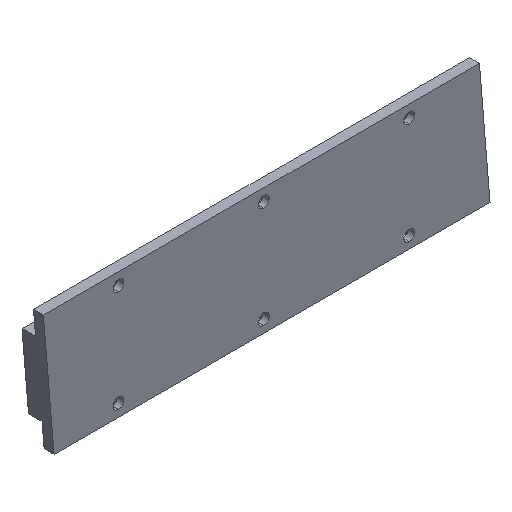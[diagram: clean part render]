
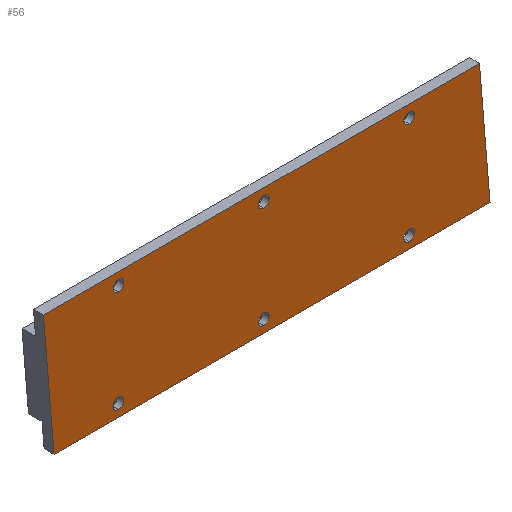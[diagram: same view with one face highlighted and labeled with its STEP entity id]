
A CAD part, isometric view. The second image highlights one B-rep face of the part: STEP entity #56.
In plain terms, the highlighted planar face has unit normal (0, -1, 0).
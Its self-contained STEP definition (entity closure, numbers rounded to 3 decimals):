
#7 = VERTEX_POINT ( 'NONE', #683 ) ;
#20 = VERTEX_POINT ( 'NONE', #718 ) ;
#29 = EDGE_LOOP ( 'NONE', ( #50, #57 ) ) ;
#30 = ORIENTED_EDGE ( 'NONE', *, *, #150, .T. ) ;
#31 = EDGE_LOOP ( 'NONE', ( #77, #72, #324, #70 ) ) ;
#32 = EDGE_LOOP ( 'NONE', ( #62, #75 ) ) ;
#33 = EDGE_LOOP ( 'NONE', ( #34, #61 ) ) ;
#34 = ORIENTED_EDGE ( 'NONE', *, *, #59, .T. ) ;
#35 = EDGE_CURVE ( 'NONE', #7, #101, #770, .T. ) ;
#36 = ORIENTED_EDGE ( 'NONE', *, *, #51, .T. ) ;
#44 = EDGE_CURVE ( 'NONE', #166, #236, #765, .T. ) ;
#49 = ORIENTED_EDGE ( 'NONE', *, *, #210, .T. ) ;
#50 = ORIENTED_EDGE ( 'NONE', *, *, #44, .T. ) ;
#51 = EDGE_CURVE ( 'NONE', #208, #222, #752, .T. ) ;
#53 = EDGE_CURVE ( 'NONE', #101, #20, #751, .T. ) ;
#56 = ADVANCED_FACE ( 'NONE', ( #772, #738, #747, #756, #755, #750, #749 ), #737, .F. ) ;
#57 = ORIENTED_EDGE ( 'NONE', *, *, #163, .T. ) ;
#58 = EDGE_LOOP ( 'NONE', ( #71, #78 ) ) ;
#59 = EDGE_CURVE ( 'NONE', #703, #699, #804, .T. ) ;
#60 = EDGE_CURVE ( 'NONE', #20, #102, #799, .T. ) ;
#61 = ORIENTED_EDGE ( 'NONE', *, *, #702, .T. ) ;
#62 = ORIENTED_EDGE ( 'NONE', *, *, #74, .T. ) ;
#64 = ORIENTED_EDGE ( 'NONE', *, *, #69, .T. ) ;
#65 = EDGE_LOOP ( 'NONE', ( #36, #49 ) ) ;
#68 = EDGE_LOOP ( 'NONE', ( #64, #30 ) ) ;
#69 = EDGE_CURVE ( 'NONE', #202, #201, #793, .T. ) ;
#70 = ORIENTED_EDGE ( 'NONE', *, *, #35, .F. ) ;
#71 = ORIENTED_EDGE ( 'NONE', *, *, #73, .T. ) ;
#72 = ORIENTED_EDGE ( 'NONE', *, *, #60, .F. ) ;
#73 = EDGE_CURVE ( 'NONE', #266, #257, #780, .T. ) ;
#74 = EDGE_CURVE ( 'NONE', #361, #290, #788, .T. ) ;
#75 = ORIENTED_EDGE ( 'NONE', *, *, #362, .T. ) ;
#77 = ORIENTED_EDGE ( 'NONE', *, *, #103, .T. ) ;
#78 = ORIENTED_EDGE ( 'NONE', *, *, #110, .T. ) ;
#101 = VERTEX_POINT ( 'NONE', #867 ) ;
#102 = VERTEX_POINT ( 'NONE', #864 ) ;
#103 = EDGE_CURVE ( 'NONE', #7, #102, #851, .T. ) ;
#110 = EDGE_CURVE ( 'NONE', #257, #266, #156, .T. ) ;
#150 = EDGE_CURVE ( 'NONE', #201, #202, #958, .T. ) ;
#156 = CIRCLE ( 'NONE', #200, 2.25 ) ;
#157 = DIRECTION ( 'NONE',  ( 0., 0., 1. ) ) ;
#159 = DIRECTION ( 'NONE',  ( 0., 1., 0. ) ) ;
#160 = CARTESIAN_POINT ( 'NONE',  ( 429.818, 0., -189.228 ) ) ;
#163 = EDGE_CURVE ( 'NONE', #236, #166, #957, .T. ) ;
#166 = VERTEX_POINT ( 'NONE', #952 ) ;
#200 = AXIS2_PLACEMENT_3D ( 'NONE', #160, #159, #157 ) ;
#201 = VERTEX_POINT ( 'NONE', #995 ) ;
#202 = VERTEX_POINT ( 'NONE', #994 ) ;
#208 = VERTEX_POINT ( 'NONE', #1044 ) ;
#210 = EDGE_CURVE ( 'NONE', #222, #208, #1039, .T. ) ;
#222 = VERTEX_POINT ( 'NONE', #1069 ) ;
#236 = VERTEX_POINT ( 'NONE', #1099 ) ;
#257 = VERTEX_POINT ( 'NONE', #1124 ) ;
#266 = VERTEX_POINT ( 'NONE', #1166 ) ;
#290 = VERTEX_POINT ( 'NONE', #1207 ) ;
#324 = ORIENTED_EDGE ( 'NONE', *, *, #53, .F. ) ;
#361 = VERTEX_POINT ( 'NONE', #1298 ) ;
#362 = EDGE_CURVE ( 'NONE', #290, #361, #1242, .T. ) ;
#683 = CARTESIAN_POINT ( 'NONE',  ( 583.182, 0., -194.228 ) ) ;
#699 = VERTEX_POINT ( 'NONE', #2344 ) ;
#702 = EDGE_CURVE ( 'NONE', #699, #703, #2388, .T. ) ;
#703 = VERTEX_POINT ( 'NONE', #2386 ) ;
#718 = CARTESIAN_POINT ( 'NONE',  ( 398.818, 0., -142.228 ) ) ;
#737 = PLANE ( 'NONE',  #743 ) ;
#738 = FACE_BOUND ( 'NONE', #65, .T. ) ;
#740 = DIRECTION ( 'NONE',  ( -0.084, 0., 0.996 ) ) ;
#741 = VECTOR ( 'NONE', #740, 1000. ) ;
#742 = CARTESIAN_POINT ( 'NONE',  ( 400.586, 0., -163.299 ) ) ;
#743 = AXIS2_PLACEMENT_3D ( 'NONE', #748, #771, #754 ) ;
#744 = DIRECTION ( 'NONE',  ( 0., 0., 1. ) ) ;
#745 = DIRECTION ( 'NONE',  ( 0., 1., 0. ) ) ;
#746 = CARTESIAN_POINT ( 'NONE',  ( 549.818, 0., -189.228 ) ) ;
#747 = FACE_BOUND ( 'NONE', #68, .T. ) ;
#748 = CARTESIAN_POINT ( 'NONE',  ( 341.862, 0., -168.228 ) ) ;
#749 = FACE_OUTER_BOUND ( 'NONE', #31, .T. ) ;
#750 = FACE_BOUND ( 'NONE', #58, .T. ) ;
#751 = LINE ( 'NONE', #742, #741 ) ;
#752 = CIRCLE ( 'NONE', #759, 2.25 ) ;
#754 = DIRECTION ( 'NONE',  ( 0., 0., 1. ) ) ;
#755 = FACE_BOUND ( 'NONE', #32, .T. ) ;
#756 = FACE_BOUND ( 'NONE', #33, .T. ) ;
#758 = DIRECTION ( 'NONE',  ( 0., 0., 1. ) ) ;
#759 = AXIS2_PLACEMENT_3D ( 'NONE', #746, #745, #744 ) ;
#760 = AXIS2_PLACEMENT_3D ( 'NONE', #763, #766, #758 ) ;
#763 = CARTESIAN_POINT ( 'NONE',  ( 549.818, 0., -147.228 ) ) ;
#765 = CIRCLE ( 'NONE', #760, 2.25 ) ;
#766 = DIRECTION ( 'NONE',  ( 0., 1., 0. ) ) ;
#767 = DIRECTION ( 'NONE',  ( -1., 0., 0. ) ) ;
#768 = VECTOR ( 'NONE', #767, 1000. ) ;
#769 = CARTESIAN_POINT ( 'NONE',  ( 341.862, 0., -194.228 ) ) ;
#770 = LINE ( 'NONE', #769, #768 ) ;
#771 = DIRECTION ( 'NONE',  ( 0., 1., 0. ) ) ;
#772 = FACE_BOUND ( 'NONE', #29, .T. ) ;
#777 = DIRECTION ( 'NONE',  ( 0., 1., 0. ) ) ;
#778 = CARTESIAN_POINT ( 'NONE',  ( 429.818, 0., -189.228 ) ) ;
#779 = AXIS2_PLACEMENT_3D ( 'NONE', #778, #777, #838 ) ;
#780 = CIRCLE ( 'NONE', #779, 2.25 ) ;
#782 = DIRECTION ( 'NONE',  ( 0., 0., 1. ) ) ;
#783 = DIRECTION ( 'NONE',  ( 0., 1., 0. ) ) ;
#784 = AXIS2_PLACEMENT_3D ( 'NONE', #790, #783, #782 ) ;
#788 = CIRCLE ( 'NONE', #837, 2.25 ) ;
#790 = CARTESIAN_POINT ( 'NONE',  ( 489.818, 0., -147.228 ) ) ;
#791 = DIRECTION ( 'NONE',  ( 1., 0., 0. ) ) ;
#792 = VECTOR ( 'NONE', #791, 1000. ) ;
#793 = CIRCLE ( 'NONE', #784, 2.25 ) ;
#794 = DIRECTION ( 'NONE',  ( 0., 0., 1. ) ) ;
#795 = DIRECTION ( 'NONE',  ( 0., 1., 0. ) ) ;
#796 = CARTESIAN_POINT ( 'NONE',  ( 489.818, 0., -189.228 ) ) ;
#798 = CARTESIAN_POINT ( 'NONE',  ( 341.862, 0., -142.228 ) ) ;
#799 = LINE ( 'NONE', #798, #792 ) ;
#800 = AXIS2_PLACEMENT_3D ( 'NONE', #796, #795, #794 ) ;
#801 = CARTESIAN_POINT ( 'NONE',  ( 429.818, 0., -147.228 ) ) ;
#804 = CIRCLE ( 'NONE', #800, 2.25 ) ;
#832 = DIRECTION ( 'NONE',  ( 0., 0., 1. ) ) ;
#833 = DIRECTION ( 'NONE',  ( 0., 1., 0. ) ) ;
#837 = AXIS2_PLACEMENT_3D ( 'NONE', #801, #833, #832 ) ;
#838 = DIRECTION ( 'NONE',  ( 0., 0., 1. ) ) ;
#848 = DIRECTION ( 'NONE',  ( -0.084, 0., 0.996 ) ) ;
#849 = VECTOR ( 'NONE', #848, 1000. ) ;
#850 = CARTESIAN_POINT ( 'NONE',  ( 579.327, 0., -148.299 ) ) ;
#851 = LINE ( 'NONE', #850, #849 ) ;
#864 = CARTESIAN_POINT ( 'NONE',  ( 578.818, 0., -142.228 ) ) ;
#867 = CARTESIAN_POINT ( 'NONE',  ( 403.182, 0., -194.228 ) ) ;
#943 = DIRECTION ( 'NONE',  ( 0., 0., 1. ) ) ;
#944 = DIRECTION ( 'NONE',  ( 0., 1., 0. ) ) ;
#945 = CARTESIAN_POINT ( 'NONE',  ( 489.818, 0., -147.228 ) ) ;
#946 = AXIS2_PLACEMENT_3D ( 'NONE', #945, #944, #943 ) ;
#951 = DIRECTION ( 'NONE',  ( 0., 1., 0. ) ) ;
#952 = CARTESIAN_POINT ( 'NONE',  ( 549.818, 0., -144.978 ) ) ;
#957 = CIRCLE ( 'NONE', #989, 2.25 ) ;
#958 = CIRCLE ( 'NONE', #946, 2.25 ) ;
#979 = DIRECTION ( 'NONE',  ( 0., 0., 1. ) ) ;
#986 = CARTESIAN_POINT ( 'NONE',  ( 549.818, 0., -147.228 ) ) ;
#989 = AXIS2_PLACEMENT_3D ( 'NONE', #986, #951, #979 ) ;
#994 = CARTESIAN_POINT ( 'NONE',  ( 489.818, 0., -144.978 ) ) ;
#995 = CARTESIAN_POINT ( 'NONE',  ( 489.818, 0., -149.478 ) ) ;
#1024 = DIRECTION ( 'NONE',  ( 0., 0., 1. ) ) ;
#1025 = DIRECTION ( 'NONE',  ( 0., 1., 0. ) ) ;
#1026 = CARTESIAN_POINT ( 'NONE',  ( 549.818, 0., -189.228 ) ) ;
#1027 = AXIS2_PLACEMENT_3D ( 'NONE', #1026, #1025, #1024 ) ;
#1039 = CIRCLE ( 'NONE', #1027, 2.25 ) ;
#1044 = CARTESIAN_POINT ( 'NONE',  ( 549.818, 0., -186.978 ) ) ;
#1069 = CARTESIAN_POINT ( 'NONE',  ( 549.818, 0., -191.478 ) ) ;
#1099 = CARTESIAN_POINT ( 'NONE',  ( 549.818, 0., -149.478 ) ) ;
#1124 = CARTESIAN_POINT ( 'NONE',  ( 429.818, 0., -191.478 ) ) ;
#1166 = CARTESIAN_POINT ( 'NONE',  ( 429.818, 0., -186.978 ) ) ;
#1207 = CARTESIAN_POINT ( 'NONE',  ( 429.818, 0., -149.478 ) ) ;
#1242 = CIRCLE ( 'NONE', #1301, 2.25 ) ;
#1258 = CARTESIAN_POINT ( 'NONE',  ( 429.818, 0., -147.228 ) ) ;
#1281 = DIRECTION ( 'NONE',  ( 0., 0., 1. ) ) ;
#1282 = DIRECTION ( 'NONE',  ( 0., 1., 0. ) ) ;
#1298 = CARTESIAN_POINT ( 'NONE',  ( 429.818, 0., -144.978 ) ) ;
#1301 = AXIS2_PLACEMENT_3D ( 'NONE', #1258, #1282, #1281 ) ;
#2334 = CARTESIAN_POINT ( 'NONE',  ( 489.818, 0., -189.228 ) ) ;
#2344 = CARTESIAN_POINT ( 'NONE',  ( 489.818, 0., -191.478 ) ) ;
#2382 = DIRECTION ( 'NONE',  ( 0., 0., 1. ) ) ;
#2383 = DIRECTION ( 'NONE',  ( 0., 1., 0. ) ) ;
#2384 = AXIS2_PLACEMENT_3D ( 'NONE', #2334, #2383, #2382 ) ;
#2386 = CARTESIAN_POINT ( 'NONE',  ( 489.818, 0., -186.978 ) ) ;
#2388 = CIRCLE ( 'NONE', #2384, 2.25 ) ;
